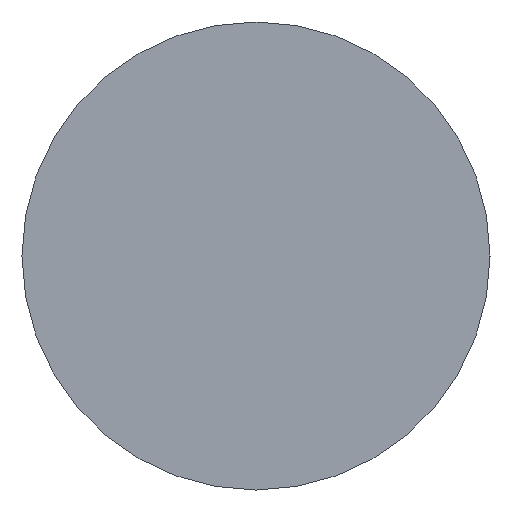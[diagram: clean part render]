
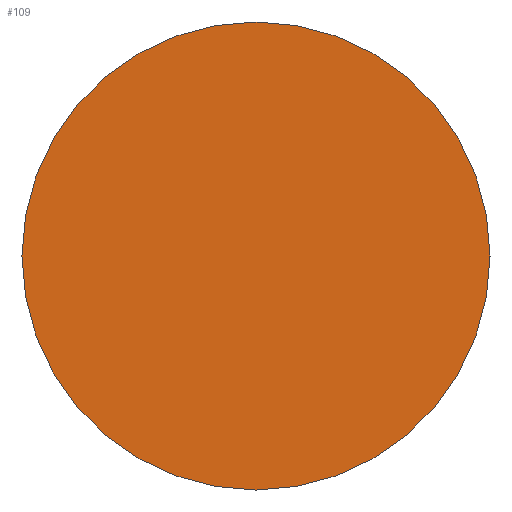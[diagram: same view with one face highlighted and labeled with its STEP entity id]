
A CAD part, left-side view. The second image highlights one B-rep face of the part: STEP entity #109.
In plain terms, the highlighted planar face has unit normal (-1, 0, 0).
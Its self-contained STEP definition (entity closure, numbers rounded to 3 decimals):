
#21 = EDGE_CURVE('',#22,#22,#24,.T.);
#22 = VERTEX_POINT('',#23);
#23 = CARTESIAN_POINT('',(79.,-39.75,0.));
#24 = SURFACE_CURVE('',#25,(#30,#42),.PCURVE_S1.);
#25 = CIRCLE('',#26,6.75);
#26 = AXIS2_PLACEMENT_3D('',#27,#28,#29);
#27 = CARTESIAN_POINT('',(79.,-33.,0.));
#28 = DIRECTION('',(1.,0.,0.));
#29 = DIRECTION('',(0.,-1.,0.));
#30 = PCURVE('',#31,#36);
#31 = CYLINDRICAL_SURFACE('',#32,6.75);
#32 = AXIS2_PLACEMENT_3D('',#33,#34,#35);
#33 = CARTESIAN_POINT('',(79.,-33.,0.));
#34 = DIRECTION('',(-1.,-0.,-0.));
#35 = DIRECTION('',(0.,-1.,0.));
#36 = DEFINITIONAL_REPRESENTATION('',(#37),#41);
#37 = LINE('',#38,#39);
#38 = CARTESIAN_POINT('',(-0.,0.));
#39 = VECTOR('',#40,1.);
#40 = DIRECTION('',(-1.,0.));
#41 = ( GEOMETRIC_REPRESENTATION_CONTEXT(2) 
PARAMETRIC_REPRESENTATION_CONTEXT() REPRESENTATION_CONTEXT('2D SPACE',''
  ) );
#42 = PCURVE('',#43,#48);
#43 = PLANE('',#44);
#44 = AXIS2_PLACEMENT_3D('',#45,#46,#47);
#45 = CARTESIAN_POINT('',(79.,-33.,0.));
#46 = DIRECTION('',(1.,0.,0.));
#47 = DIRECTION('',(-0.,0.,1.));
#48 = DEFINITIONAL_REPRESENTATION('',(#49),#53);
#49 = CIRCLE('',#50,6.75);
#50 = AXIS2_PLACEMENT_2D('',#51,#52);
#51 = CARTESIAN_POINT('',(0.,0.));
#52 = DIRECTION('',(0.,1.));
#53 = ( GEOMETRIC_REPRESENTATION_CONTEXT(2) 
PARAMETRIC_REPRESENTATION_CONTEXT() REPRESENTATION_CONTEXT('2D SPACE',''
  ) );
#109 = ADVANCED_FACE('',(#110),#43,.F.);
#110 = FACE_BOUND('',#111,.F.);
#111 = EDGE_LOOP('',(#112));
#112 = ORIENTED_EDGE('',*,*,#21,.T.);
